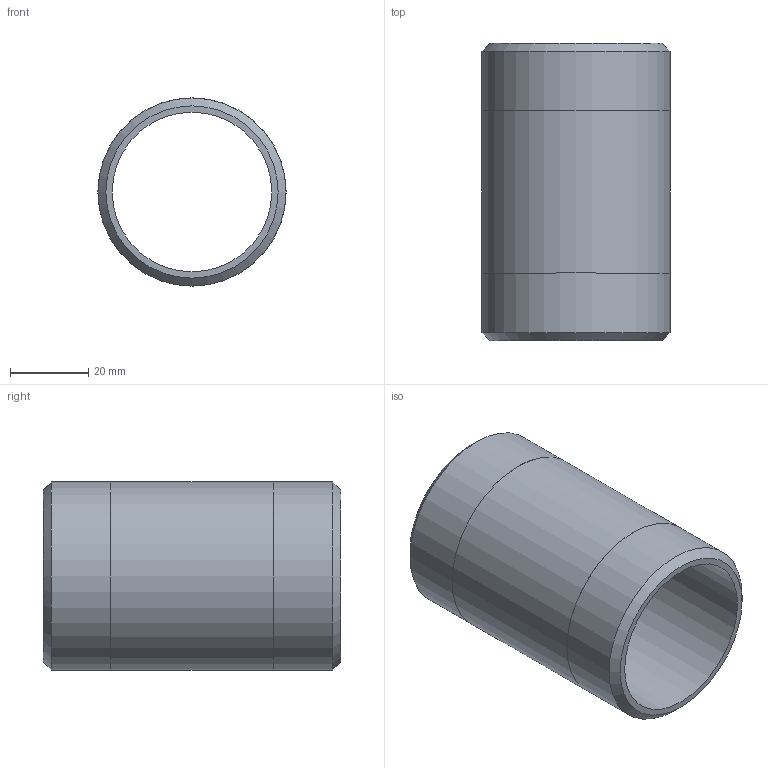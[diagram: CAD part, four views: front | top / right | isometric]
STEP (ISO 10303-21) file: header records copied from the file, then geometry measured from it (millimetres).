
FILE_DESCRIPTION(/* description */ (''),/* implementation_level */ '2;1');
FILE_NAME(/* name */ 'C:/Users/drich/Desktop/SSPN1-1_2-3 v1.step',/* time_stamp */ '2020-01-03T16:19:19-06:00',/* author */ (''),/* organization */ (''),/* preprocessor_version */ 'ST-DEVELOPER v18',/* originating_system */ 'Autodesk Translation Framework v8.12.0.6',/* authorisation */ '');
FILE_SCHEMA (('AUTOMOTIVE_DESIGN { 1 0 10303 214 3 1 1 }'));
Length unit declared in the file: inch
Products named in the file (1): SSPN1-1_2-3
Bounding box: 48.26 x 76.2 x 48.26 mm (x, y, z)
Volume: 38561.3 mm3; surface area: 21997.3 mm2
Topology: 1 solids, 1 shells, 10 faces, 24 edges, 18 vertices
Faces by surface type: cylinder 4, plane 4, cone 2
Full cylindrical faces by diameter (mm): 40.894 x1, 48.209 x2, 48.26 x1
Entity records: 353 total; most frequent: DIRECTION 64, CARTESIAN_POINT 53, ORIENTED_EDGE 48, AXIS2_PLACEMENT_3D 29, EDGE_CURVE 24, CIRCLE 18, VERTEX_POINT 18, EDGE_LOOP 14
